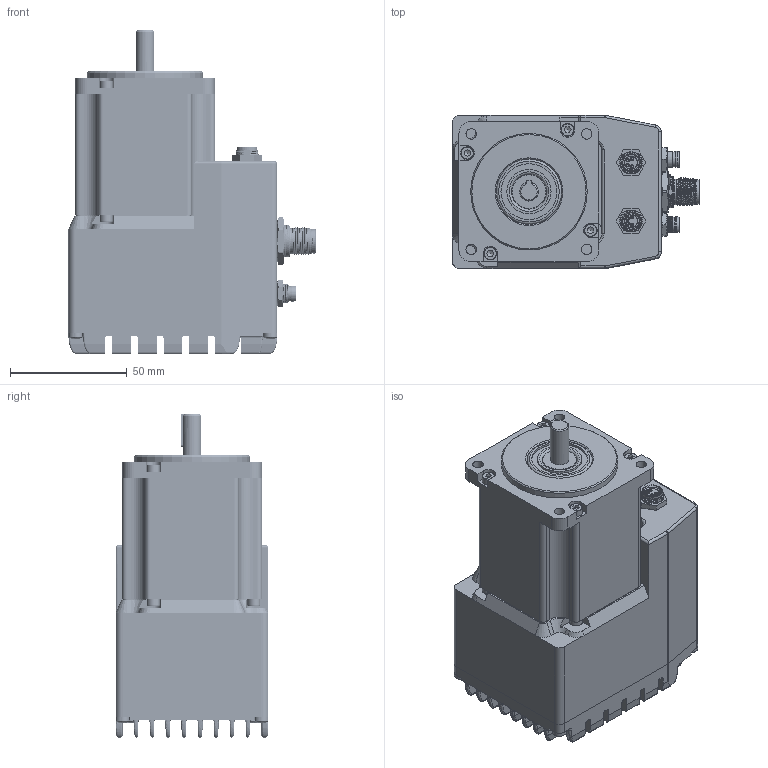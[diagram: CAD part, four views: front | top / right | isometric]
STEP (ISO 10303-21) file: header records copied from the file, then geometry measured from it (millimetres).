
FILE_DESCRIPTION(/* description */ ('Unknown'),/* implementation_level */ '2;1');
FILE_NAME(/* name */ 'DM4D2200-PS1',/* time_stamp */ '2025-01-17T14:12:24+01:00',/* author */ ('Unknown'),/* organization */ ('Unknown'),/* preprocessor_version */ 'ST-DEVELOPER v16.7',/* originating_system */ 'Solid Edge',/* authorisation */ 'Unknown');
FILE_SCHEMA (('AUTOMOTIVE_DESIGN {1 0 10303 214 3 1 1}'));
Products named in the file (22): Assieme DM4D2200-PS1; motore con encoder; FL60SVM20-48V-38AA1; 0001648181_SW0002; Encoder; Guarnizione motore cover; Cover; tcc_M3x06; 8-04pmms-sf7001; 8-04PMMS-SF7001; ghiera per 8-04PMMS-SF7001; 1424230; Ghiera per 1424230; M12A-05PMMS-SF8001-STP; Ghiera per M12A-05PMMS-SF8001-STP; Dissipatore; Guarnizione dissipatore cover; tcc_M3x08; Spezzata_M3_compressa; tcc_M3x04; m8-04pffp-sf8001; Ghiera per SM8-04PFFS-SF8001-STP
Assembly tree (29 placements, depth 4):
  Assieme DM4D2200-PS1
    motore con encoder
      FL60SVM20-48V-38AA1
        0001648181_SW0002
      Encoder
    Guarnizione motore cover
    Cover
    tcc_M3x06  x4
    8-04pmms-sf7001
      8-04PMMS-SF7001
    ghiera per 8-04PMMS-SF7001
    1424230
    Ghiera per 1424230
    M12A-05PMMS-SF8001-STP
    Ghiera per M12A-05PMMS-SF8001-STP
    Dissipatore
    Guarnizione dissipatore cover
    tcc_M3x08  x4
    Spezzata_M3_compressa
    tcc_M3x04
    m8-04pffp-sf8001  x2
    Ghiera per SM8-04PFFS-SF8001-STP  x2
Bounding box: 105.95 x 65.6 x 138.6 mm (x, y, z)
Volume: 235499.7 mm3; surface area: 135128.4 mm2
Topology: 29 solids, 32 shells, 4124 faces, 10973 edges, 7131 vertices
Faces by surface type: plane 2035, cylinder 1234, bspline 479, cone 223, torus 135, sphere 18
Full cylindrical faces by diameter (mm): 0.6 x8, 0.8 x4, 0.9 x8, 1 x14, 1.2 x9, 1.4 x4, 1.45 x5, 1.5 x4, 1.55 x8, 1.6 x2, 2.013 x4, 2.25 x3, 2.459 x8, 2.5 x8, 3 x13, 3.2 x4, 3.4 x2, 3.5 x1, 4.5 x4, 5.5 x8, 5.6 x2, 5.75 x3, 5.8 x1, 6 x9, 6.5 x3, 6.8 x4, 6.9 x2, 8 x2, 8.3 x1, 8.6 x1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
Entity records: 149544 total; most frequent: CARTESIAN_POINT 43619, ORIENTED_EDGE 18132, DIRECTION 15882, EDGE_CURVE 9066, VERTEX_POINT 6026, AXIS2_PLACEMENT_3D 5444, LINE 4994, VECTOR 4994
